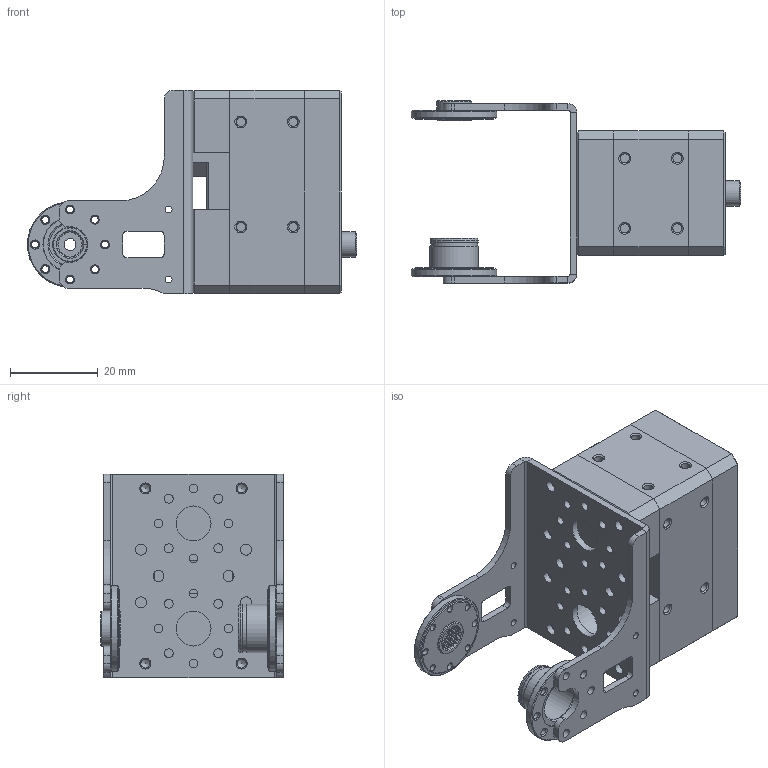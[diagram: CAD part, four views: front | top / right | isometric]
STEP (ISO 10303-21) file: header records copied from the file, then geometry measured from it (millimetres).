
FILE_DESCRIPTION(/* description */ (''),/* implementation_level */ '2;1');
FILE_NAME(/* name */ 'C:\Users\robos\OneDrive\ドキュメント\Inventor\OpenMANIPULATOR\OpenMANIPULATOR-MAX\urdf変換\om-max_link5_dummy.stp',/* time_stamp */ '2020-11-05T02:16:42+09:00',/* author */ ('Y.Shibata'),/* organization */ (''),/* preprocessor_version */ 'ST-DEVELOPER v15.2',/* originating_system */ 'Autodesk Inventor 2014',/* authorisation */ '');
FILE_SCHEMA (('AUTOMOTIVE_DESIGN { 1 0 10303 214 3 1 1 }'));
Length unit declared in the file: millimetre
Products named in the file (5): FR12_H104; HN12_N101; HN12_I101; XM430-W350; om-max_link5_dummy
Assembly tree (4 placements, depth 2):
  om-max_link5_dummy
    FR12_H104
    HN12_N101
    HN12_I101
    XM430-W350
Bounding box: 75.2 x 41.7 x 46.5 mm (x, y, z)
Volume: 46345.7 mm3; surface area: 23054 mm2
Topology: 7 solids, 7 shells, 476 faces, 1167 edges, 749 vertices
Faces by surface type: plane 206, cylinder 194, cone 76
Full cylindrical faces by diameter (mm): 1.567 x4, 1.6 x16, 2 x26, 2.05 x28, 2.1 x1, 2.5 x10, 2.6 x12, 2.7 x1, 4.8 x8, 5.8 x1, 6 x1, 8 x4, 9.5 x1, 10.7 x1, 11 x1, 11.1 x1, 12.2 x1, 13 x1, 18.2 x1, 19.5 x2
Entity records: 13732 total; most frequent: CARTESIAN_POINT 2600, DIRECTION 2285, ORIENTED_EDGE 1886, EDGE_CURVE 943, AXIS2_PLACEMENT_3D 923, EDGE_LOOP 859, VERTEX_POINT 722, FACE_OUTER_BOUND 476
